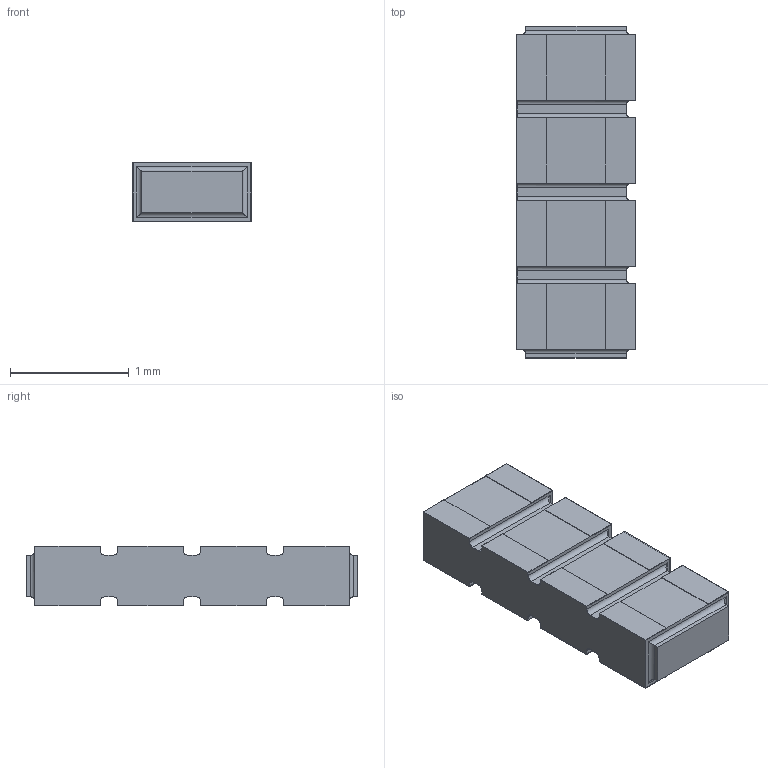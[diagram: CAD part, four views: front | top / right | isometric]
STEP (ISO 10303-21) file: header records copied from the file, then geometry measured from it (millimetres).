
FILE_DESCRIPTION(/* description */ (''),/* implementation_level */ '2;1');
FILE_NAME(/* name */ 'S:\DOCUMENT\AUTOCAD\3D_Modèles\10_3D-pour-VISHAY-COM\PRA\PRA074\PRA074-C2_à_C8\10_IGES\PRA074C4_B-or-N-or-G.stp',/* time_stamp */ '2017-12-19T14:38:52+01:00',/* author */ ('dparmentier'),/* organization */ ('unknown'),/* preprocessor_version */ 'ST-DEVELOPER v17',/* originating_system */ 'Autodesk Inventor 2018',/* authorisation */ '');
FILE_SCHEMA (('AUTOMOTIVE_DESIGN { 1 0 10303 214 3 1 1 }'));
Length unit declared in the file: millimetre
Products named in the file (1): PRA074C4_B-or-N-or-G
Bounding box: 1 x 2.8 x 0.5 mm (x, y, z)
Volume: 1.3 mm3; surface area: 18.8 mm2
Topology: 6 solids, 6 shells, 164 faces, 430 edges, 280 vertices
Faces by surface type: plane 126, cylinder 38
Entity records: 5018 total; most frequent: CARTESIAN_POINT 875, ORIENTED_EDGE 860, DIRECTION 816, EDGE_CURVE 430, LINE 374, VECTOR 374, VERTEX_POINT 280, AXIS2_PLACEMENT_3D 221
